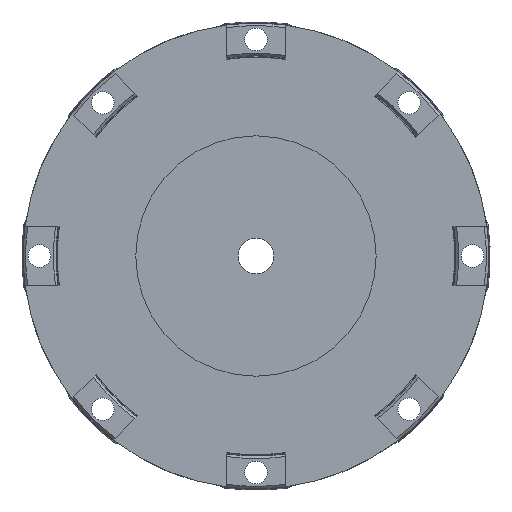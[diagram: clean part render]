
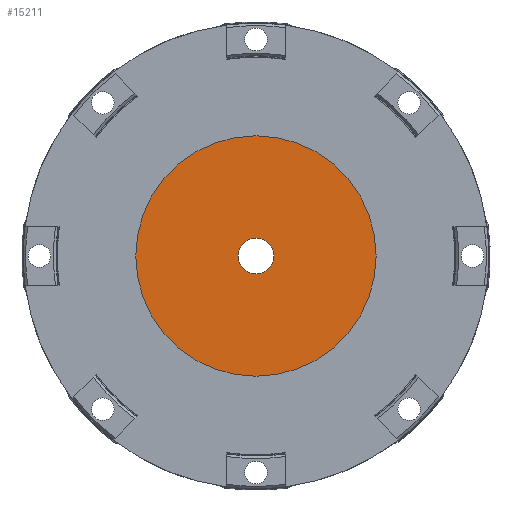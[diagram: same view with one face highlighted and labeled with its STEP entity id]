
A CAD part, left-side view. The second image highlights one B-rep face of the part: STEP entity #15211.
In plain terms, the highlighted planar face has unit normal (-1, 0, 0).
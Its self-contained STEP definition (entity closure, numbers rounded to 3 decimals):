
#110=PLANE('',#16531);
#3953=ORIENTED_EDGE('',*,*,#8644,.T.);
#3954=ORIENTED_EDGE('',*,*,#8643,.F.);
#8643=EDGE_CURVE('',#10970,#10970,#12293,.T.);
#8644=EDGE_CURVE('',#10971,#10971,#12294,.T.);
#10970=VERTEX_POINT('',#24180);
#10971=VERTEX_POINT('',#24183);
#12293=CIRCLE('',#16530,6.35);
#12294=CIRCLE('',#16532,42.837);
#12814=EDGE_LOOP('',(#3953));
#12815=EDGE_LOOP('',(#3954));
#13814=FACE_BOUND('',#12814,.T.);
#13815=FACE_BOUND('',#12815,.T.);
#15211=ADVANCED_FACE('',(#13814,#13815),#110,.T.);
#16530=AXIS2_PLACEMENT_3D('',#24179,#19065,#19066);
#16531=AXIS2_PLACEMENT_3D('',#24181,#19067,#19068);
#16532=AXIS2_PLACEMENT_3D('',#24182,#19069,#19070);
#19065=DIRECTION('',(-1.,0.,0.));
#19066=DIRECTION('',(0.,0.,1.));
#19067=DIRECTION('',(-1.,0.,0.));
#19068=DIRECTION('',(0.,0.,1.));
#19069=DIRECTION('',(-1.,0.,0.));
#19070=DIRECTION('',(0.,0.,1.));
#24179=CARTESIAN_POINT('',(-0.203,0.,0.));
#24180=CARTESIAN_POINT('',(-0.203,0.,6.35));
#24181=CARTESIAN_POINT('',(-0.203,6.35,0.));
#24182=CARTESIAN_POINT('',(-0.203,0.,0.));
#24183=CARTESIAN_POINT('',(-0.203,0.,42.837));
